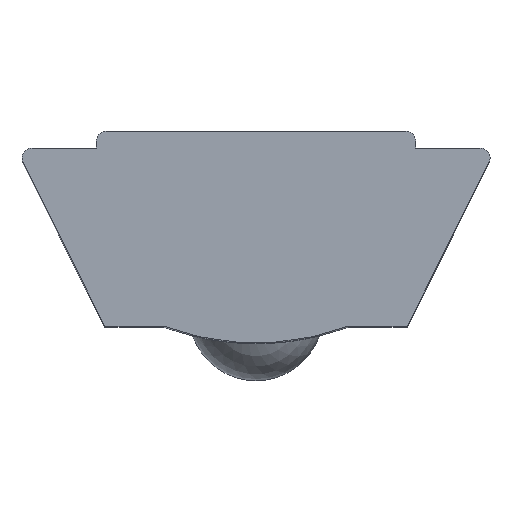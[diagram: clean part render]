
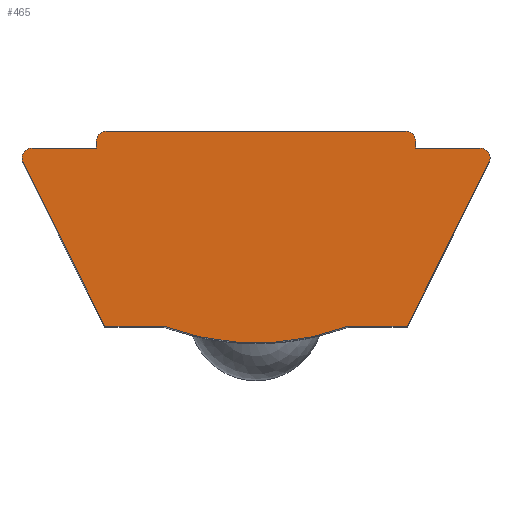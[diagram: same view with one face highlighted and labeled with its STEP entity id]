
A CAD part, top view. The second image highlights one B-rep face of the part: STEP entity #465.
In plain terms, the highlighted planar face has unit normal (0, 0, 1).
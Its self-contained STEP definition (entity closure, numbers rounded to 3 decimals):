
#13 = AXIS2_PLACEMENT_3D ( 'NONE', #531, #522, #521 ) ;
#18 = CARTESIAN_POINT ( 'NONE',  ( 6.665, 5.8, 10. ) ) ;
#31 = AXIS2_PLACEMENT_3D ( 'NONE', #542, #540, #539 ) ;
#33 = AXIS2_PLACEMENT_3D ( 'NONE', #680, #617, #616 ) ;
#55 = CARTESIAN_POINT ( 'NONE',  ( 4.75, 6., 10. ) ) ;
#74 = CIRCLE ( 'NONE', #497, 0.3 ) ;
#76 = CIRCLE ( 'NONE', #559, 0.3 ) ;
#83 = CIRCLE ( 'NONE', #31, 0.3 ) ;
#86 = CIRCLE ( 'NONE', #13, 0.3 ) ;
#95 = LINE ( 'NONE', #577, #117 ) ;
#102 = VERTEX_POINT ( 'NONE', #537 ) ;
#104 = DIRECTION ( 'NONE',  ( -1., 0., 0. ) ) ;
#106 = CARTESIAN_POINT ( 'NONE',  ( -4.75, 5.8, 10. ) ) ;
#108 = CARTESIAN_POINT ( 'NONE',  ( -4.75, 6.3, 10. ) ) ;
#117 = VECTOR ( 'NONE', #587, 1000. ) ;
#124 = CARTESIAN_POINT ( 'NONE',  ( -4.5, 0.5, 10. ) ) ;
#125 = LINE ( 'NONE', #684, #130 ) ;
#127 = FACE_OUTER_BOUND ( 'NONE', #238, .T. ) ;
#130 = VECTOR ( 'NONE', #683, 1000. ) ;
#135 = DIRECTION ( 'NONE',  ( 1., 0., 0. ) ) ;
#138 = CARTESIAN_POINT ( 'NONE',  ( -6.665, 5.5, 10. ) ) ;
#140 = LINE ( 'NONE', #770, #145 ) ;
#145 = VECTOR ( 'NONE', #760, 1000. ) ;
#161 = VECTOR ( 'NONE', #814, 1000. ) ;
#162 = LINE ( 'NONE', #818, #161 ) ;
#176 = VECTOR ( 'NONE', #781, 1000. ) ;
#178 = LINE ( 'NONE', #124, #176 ) ;
#184 = DIRECTION ( 'NONE',  ( 1., 0., 0. ) ) ;
#187 = VECTOR ( 'NONE', #213, 1000. ) ;
#189 = LINE ( 'NONE', #108, #187 ) ;
#194 = CARTESIAN_POINT ( 'NONE',  ( -4.5, 0.5, 10. ) ) ;
#200 = CARTESIAN_POINT ( 'NONE',  ( -6.665, 5.8, 10. ) ) ;
#205 = VECTOR ( 'NONE', #545, 1000. ) ;
#213 = DIRECTION ( 'NONE',  ( -1., 0., 0. ) ) ;
#214 = CARTESIAN_POINT ( 'NONE',  ( 6.933, 5.366, 10. ) ) ;
#215 = AXIS2_PLACEMENT_3D ( 'NONE', #138, #228, #135 ) ;
#216 = LINE ( 'NONE', #592, #205 ) ;
#217 = DIRECTION ( 'NONE',  ( 0., 0., 1. ) ) ;
#224 = DIRECTION ( 'NONE',  ( 0., 1., 0. ) ) ;
#227 = AXIS2_PLACEMENT_3D ( 'NONE', #756, #217, #184 ) ;
#228 = DIRECTION ( 'NONE',  ( 0., 0., 1. ) ) ;
#232 = CARTESIAN_POINT ( 'NONE',  ( -6.965, 5.5, 10. ) ) ;
#238 = EDGE_LOOP ( 'NONE', ( #372, #368, #358, #357, #367, #373, #377, #404, #401, #405, #387, #383, #400, #414, #407 ) ) ;
#239 = EDGE_CURVE ( 'NONE', #471, #541, #290, .T. ) ;
#242 = LINE ( 'NONE', #106, #246 ) ;
#244 = EDGE_CURVE ( 'NONE', #620, #102, #308, .T. ) ;
#245 = CARTESIAN_POINT ( 'NONE',  ( -4.75, 6., 10. ) ) ;
#246 = VECTOR ( 'NONE', #104, 1000. ) ;
#249 = LINE ( 'NONE', #281, #252 ) ;
#252 = VECTOR ( 'NONE', #224, 1000. ) ;
#264 = CARTESIAN_POINT ( 'NONE',  ( 4.5, 0.5, 10. ) ) ;
#281 = CARTESIAN_POINT ( 'NONE',  ( 4.75, 6.3, 10. ) ) ;
#290 = CIRCLE ( 'NONE', #227, 7.813 ) ;
#299 = EDGE_CURVE ( 'NONE', #501, #309, #249, .T. ) ;
#303 = EDGE_CURVE ( 'NONE', #491, #839, #242, .T. ) ;
#308 = CIRCLE ( 'NONE', #215, 0.3 ) ;
#309 = VERTEX_POINT ( 'NONE', #55 ) ;
#312 = VERTEX_POINT ( 'NONE', #18 ) ;
#347 = EDGE_CURVE ( 'NONE', #102, #838, #216, .T. ) ;
#357 = ORIENTED_EDGE ( 'NONE', *, *, #494, .T. ) ;
#358 = ORIENTED_EDGE ( 'NONE', *, *, #369, .T. ) ;
#367 = ORIENTED_EDGE ( 'NONE', *, *, #479, .T. ) ;
#368 = ORIENTED_EDGE ( 'NONE', *, *, #492, .T. ) ;
#369 = EDGE_CURVE ( 'NONE', #398, #499, #189, .T. ) ;
#372 = ORIENTED_EDGE ( 'NONE', *, *, #299, .T. ) ;
#373 = ORIENTED_EDGE ( 'NONE', *, *, #303, .T. ) ;
#376 = EDGE_CURVE ( 'NONE', #838, #471, #178, .T. ) ;
#377 = ORIENTED_EDGE ( 'NONE', *, *, #502, .T. ) ;
#382 = CARTESIAN_POINT ( 'NONE',  ( 2.75, 0.5, 10. ) ) ;
#383 = ORIENTED_EDGE ( 'NONE', *, *, #393, .T. ) ;
#387 = ORIENTED_EDGE ( 'NONE', *, *, #239, .T. ) ;
#393 = EDGE_CURVE ( 'NONE', #541, #596, #162, .T. ) ;
#398 = VERTEX_POINT ( 'NONE', #823 ) ;
#400 = ORIENTED_EDGE ( 'NONE', *, *, #434, .T. ) ;
#401 = ORIENTED_EDGE ( 'NONE', *, *, #347, .T. ) ;
#404 = ORIENTED_EDGE ( 'NONE', *, *, #244, .T. ) ;
#405 = ORIENTED_EDGE ( 'NONE', *, *, #376, .T. ) ;
#407 = ORIENTED_EDGE ( 'NONE', *, *, #454, .T. ) ;
#414 = ORIENTED_EDGE ( 'NONE', *, *, #504, .T. ) ;
#434 = EDGE_CURVE ( 'NONE', #596, #762, #140, .T. ) ;
#454 = EDGE_CURVE ( 'NONE', #312, #501, #125, .T. ) ;
#465 = ADVANCED_FACE ( 'NONE', ( #127 ), #622, .T. ) ;
#471 = VERTEX_POINT ( 'NONE', #675 ) ;
#479 = EDGE_CURVE ( 'NONE', #611, #491, #95, .T. ) ;
#491 = VERTEX_POINT ( 'NONE', #548 ) ;
#492 = EDGE_CURVE ( 'NONE', #309, #398, #83, .T. ) ;
#493 = DIRECTION ( 'NONE',  ( 1., 0., 0. ) ) ;
#494 = EDGE_CURVE ( 'NONE', #499, #611, #86, .T. ) ;
#496 = DIRECTION ( 'NONE',  ( 0., 0., 1. ) ) ;
#497 = AXIS2_PLACEMENT_3D ( 'NONE', #511, #509, #507 ) ;
#498 = CARTESIAN_POINT ( 'NONE',  ( 6.665, 5.5, 10. ) ) ;
#499 = VERTEX_POINT ( 'NONE', #563 ) ;
#501 = VERTEX_POINT ( 'NONE', #538 ) ;
#502 = EDGE_CURVE ( 'NONE', #839, #620, #74, .T. ) ;
#504 = EDGE_CURVE ( 'NONE', #762, #312, #76, .T. ) ;
#507 = DIRECTION ( 'NONE',  ( 1., 0., 0. ) ) ;
#509 = DIRECTION ( 'NONE',  ( 0., 0., 1. ) ) ;
#511 = CARTESIAN_POINT ( 'NONE',  ( -6.665, 5.5, 10. ) ) ;
#521 = DIRECTION ( 'NONE',  ( 1., 0., 0. ) ) ;
#522 = DIRECTION ( 'NONE',  ( 0., 0., 1. ) ) ;
#531 = CARTESIAN_POINT ( 'NONE',  ( -4.45, 6., 10. ) ) ;
#537 = CARTESIAN_POINT ( 'NONE',  ( -6.933, 5.366, 10. ) ) ;
#538 = CARTESIAN_POINT ( 'NONE',  ( 4.75, 5.8, 10. ) ) ;
#539 = DIRECTION ( 'NONE',  ( 1., 0., 0. ) ) ;
#540 = DIRECTION ( 'NONE',  ( 0., 0., 1. ) ) ;
#541 = VERTEX_POINT ( 'NONE', #382 ) ;
#542 = CARTESIAN_POINT ( 'NONE',  ( 4.45, 6., 10. ) ) ;
#545 = DIRECTION ( 'NONE',  ( 0.447, -0.894, 0. ) ) ;
#548 = CARTESIAN_POINT ( 'NONE',  ( -4.75, 5.8, 10. ) ) ;
#559 = AXIS2_PLACEMENT_3D ( 'NONE', #498, #496, #493 ) ;
#563 = CARTESIAN_POINT ( 'NONE',  ( -4.45, 6.3, 10. ) ) ;
#577 = CARTESIAN_POINT ( 'NONE',  ( -4.75, 6.3, 10. ) ) ;
#587 = DIRECTION ( 'NONE',  ( 0., -1., 0. ) ) ;
#592 = CARTESIAN_POINT ( 'NONE',  ( -7.15, 5.8, 10. ) ) ;
#596 = VERTEX_POINT ( 'NONE', #264 ) ;
#611 = VERTEX_POINT ( 'NONE', #245 ) ;
#616 = DIRECTION ( 'NONE',  ( 1., 0., 0. ) ) ;
#617 = DIRECTION ( 'NONE',  ( 0., 0., 1. ) ) ;
#620 = VERTEX_POINT ( 'NONE', #232 ) ;
#622 = PLANE ( 'NONE',  #33 ) ;
#675 = CARTESIAN_POINT ( 'NONE',  ( -2.75, 0.5, 10. ) ) ;
#680 = CARTESIAN_POINT ( 'NONE',  ( 0., 7.813, 10. ) ) ;
#683 = DIRECTION ( 'NONE',  ( -1., 0., 0. ) ) ;
#684 = CARTESIAN_POINT ( 'NONE',  ( 4.75, 5.8, 10. ) ) ;
#756 = CARTESIAN_POINT ( 'NONE',  ( 0., 7.813, 10. ) ) ;
#760 = DIRECTION ( 'NONE',  ( 0.447, 0.894, 0. ) ) ;
#762 = VERTEX_POINT ( 'NONE', #214 ) ;
#770 = CARTESIAN_POINT ( 'NONE',  ( 7.15, 5.8, 10. ) ) ;
#781 = DIRECTION ( 'NONE',  ( 1., 0., 0. ) ) ;
#814 = DIRECTION ( 'NONE',  ( 1., 0., 0. ) ) ;
#818 = CARTESIAN_POINT ( 'NONE',  ( 4.5, 0.5, 10. ) ) ;
#823 = CARTESIAN_POINT ( 'NONE',  ( 4.45, 6.3, 10. ) ) ;
#838 = VERTEX_POINT ( 'NONE', #194 ) ;
#839 = VERTEX_POINT ( 'NONE', #200 ) ;
